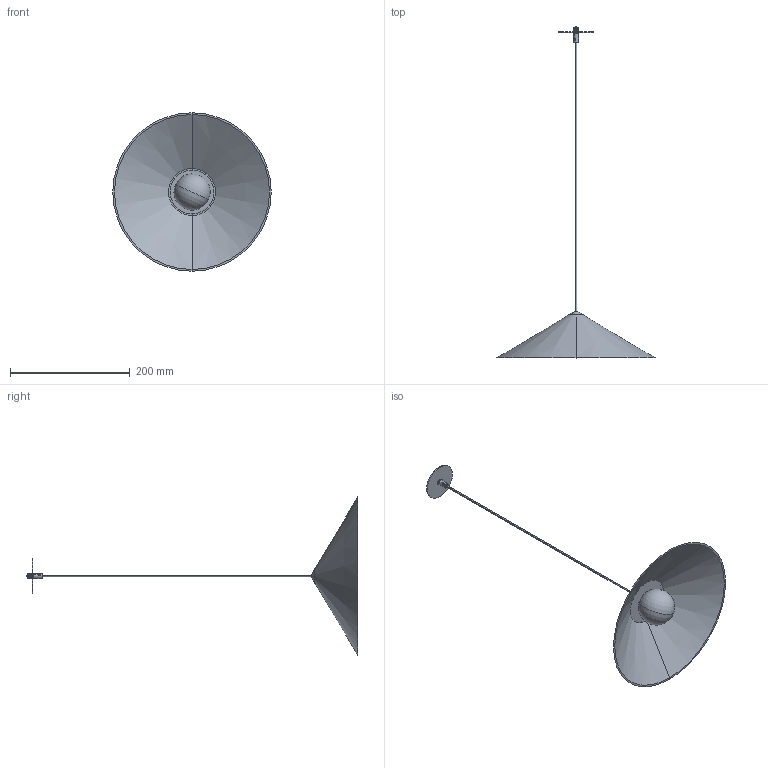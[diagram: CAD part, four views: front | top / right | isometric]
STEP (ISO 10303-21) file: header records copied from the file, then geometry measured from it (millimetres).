
FILE_DESCRIPTION (( 'STEP AP214' ), '1' );
FILE_NAME ('BELL_260_Emp_STEP.STEP', '2024-05-29T14:18:35', ( '' ), ( '' ), 'SwSTEP 2.0', 'SolidWorks 2024', '' );
FILE_SCHEMA (( 'AUTOMOTIVE_DESIGN' ));
Length unit declared in the file: millimetre
Products named in the file (1): BELL_260_Emp_STEP
Bounding box: 265 x 555 x 265 mm (x, y, z)
Volume: 138116 mm3; surface area: 168683.3 mm2
Topology: 8 solids, 8 shells, 204 faces, 497 edges, 325 vertices
Faces by surface type: plane 78, cylinder 70, bspline 24, cone 16, torus 12, sphere 4
Entity records: 11564 total; most frequent: CARTESIAN_POINT 7007, ORIENTED_EDGE 974, DIRECTION 845, EDGE_CURVE 487, VERTEX_POINT 319, AXIS2_PLACEMENT_3D 312, EDGE_LOOP 236, LINE 221
